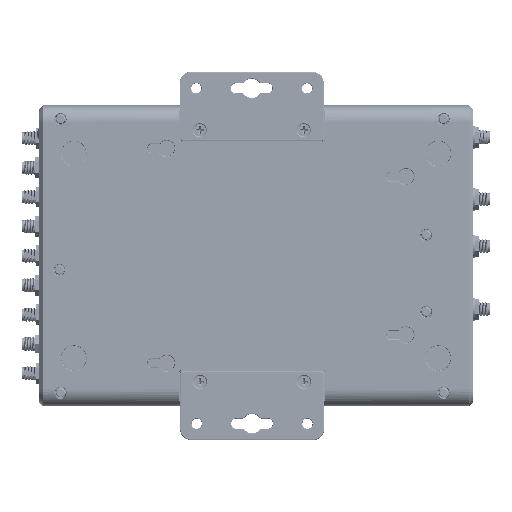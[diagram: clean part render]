
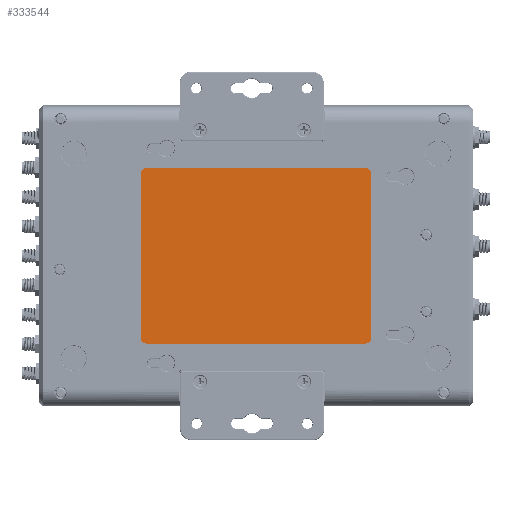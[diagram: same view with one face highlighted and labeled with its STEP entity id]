
A CAD part, front view. The second image highlights one B-rep face of the part: STEP entity #333544.
In plain terms, the highlighted planar face has unit normal (0, -1, 0) as drawn and (0, 0, -1) by its records, which use the part's own axes.
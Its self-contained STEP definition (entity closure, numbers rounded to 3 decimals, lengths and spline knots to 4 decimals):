
#37466=CIRCLE('',#364614,0.0984);
#37467=CIRCLE('',#364616,0.0984);
#37468=CIRCLE('',#364617,0.0984);
#37469=CIRCLE('',#364618,0.0984);
#55164=FACE_OUTER_BOUND('',#73867,.T.);
#73867=EDGE_LOOP('',(#304250,#304251,#304252,#304253,#304254,#304255,#304256,
#304257));
#103674=LINE('',#717402,#133579);
#103676=LINE('',#717411,#133581);
#103677=LINE('',#717415,#133582);
#103678=LINE('',#717418,#133583);
#133579=VECTOR('',#452801,2.8583);
#133581=VECTOR('',#452811,3.8189);
#133582=VECTOR('',#452814,2.8583);
#133583=VECTOR('',#452817,3.8189);
#164109=VERTEX_POINT('',#717398);
#164110=VERTEX_POINT('',#717400);
#164111=VERTEX_POINT('',#717404);
#164112=VERTEX_POINT('',#717408);
#164113=VERTEX_POINT('',#717410);
#164114=VERTEX_POINT('',#717412);
#164115=VERTEX_POINT('',#717414);
#164116=VERTEX_POINT('',#717416);
#211624=EDGE_CURVE('',#164109,#164110,#103674,.T.);
#211625=EDGE_CURVE('',#164109,#164111,#37466,.T.);
#211627=EDGE_CURVE('',#164112,#164110,#37467,.T.);
#211628=EDGE_CURVE('',#164112,#164113,#103676,.T.);
#211629=EDGE_CURVE('',#164114,#164113,#37468,.T.);
#211630=EDGE_CURVE('',#164114,#164115,#103677,.T.);
#211631=EDGE_CURVE('',#164116,#164115,#37469,.T.);
#211632=EDGE_CURVE('',#164116,#164111,#103678,.T.);
#304250=ORIENTED_EDGE('',*,*,#211625,.F.);
#304251=ORIENTED_EDGE('',*,*,#211624,.T.);
#304252=ORIENTED_EDGE('',*,*,#211627,.F.);
#304253=ORIENTED_EDGE('',*,*,#211628,.T.);
#304254=ORIENTED_EDGE('',*,*,#211629,.F.);
#304255=ORIENTED_EDGE('',*,*,#211630,.T.);
#304256=ORIENTED_EDGE('',*,*,#211631,.F.);
#304257=ORIENTED_EDGE('',*,*,#211632,.T.);
#316161=PLANE('',#364615);
#333544=ADVANCED_FACE('',(#55164),#316161,.T.);
#364614=AXIS2_PLACEMENT_3D('',#717405,#452804,#452805);
#364615=AXIS2_PLACEMENT_3D('',#717407,#452807,#452808);
#364616=AXIS2_PLACEMENT_3D('',#717409,#452809,#452810);
#364617=AXIS2_PLACEMENT_3D('',#717413,#452812,#452813);
#364618=AXIS2_PLACEMENT_3D('',#717417,#452815,#452816);
#452801=DIRECTION('',(1.,0.,0.));
#452804=DIRECTION('center_axis',(0.,0.,1.));
#452805=DIRECTION('ref_axis',(0.,1.,0.));
#452807=DIRECTION('center_axis',(0.,0.,-1.));
#452808=DIRECTION('ref_axis',(0.,-1.,0.));
#452809=DIRECTION('center_axis',(0.,0.,1.));
#452810=DIRECTION('ref_axis',(1.,0.,0.));
#452811=DIRECTION('',(0.,-1.,0.));
#452812=DIRECTION('center_axis',(0.,0.,1.));
#452813=DIRECTION('ref_axis',(0.,-1.,0.));
#452814=DIRECTION('',(-1.,0.,0.));
#452815=DIRECTION('center_axis',(0.,0.,1.));
#452816=DIRECTION('ref_axis',(-1.,0.,0.));
#452817=DIRECTION('',(0.,1.,0.));
#717398=CARTESIAN_POINT('',(-8.0433,1.122,0.0118));
#717400=CARTESIAN_POINT('',(-5.185,1.122,0.0118));
#717402=CARTESIAN_POINT('',(-8.0433,1.122,0.0118));
#717404=CARTESIAN_POINT('',(-8.1417,1.0236,0.0118));
#717405=CARTESIAN_POINT('Origin',(-8.0433,1.0236,0.0118));
#717407=CARTESIAN_POINT('Origin',(0.,0.,0.0118));
#717408=CARTESIAN_POINT('',(-5.0866,1.0236,0.0118));
#717409=CARTESIAN_POINT('Origin',(-5.185,1.0236,0.0118));
#717410=CARTESIAN_POINT('',(-5.0866,-2.7953,0.0118));
#717411=CARTESIAN_POINT('',(-5.0866,1.0236,0.0118));
#717412=CARTESIAN_POINT('',(-5.185,-2.8937,0.0118));
#717413=CARTESIAN_POINT('Origin',(-5.185,-2.7953,0.0118));
#717414=CARTESIAN_POINT('',(-8.0433,-2.8937,0.0118));
#717415=CARTESIAN_POINT('',(-5.185,-2.8937,0.0118));
#717416=CARTESIAN_POINT('',(-8.1417,-2.7953,0.0118));
#717417=CARTESIAN_POINT('Origin',(-8.0433,-2.7953,0.0118));
#717418=CARTESIAN_POINT('',(-8.1417,-2.7953,0.0118));
